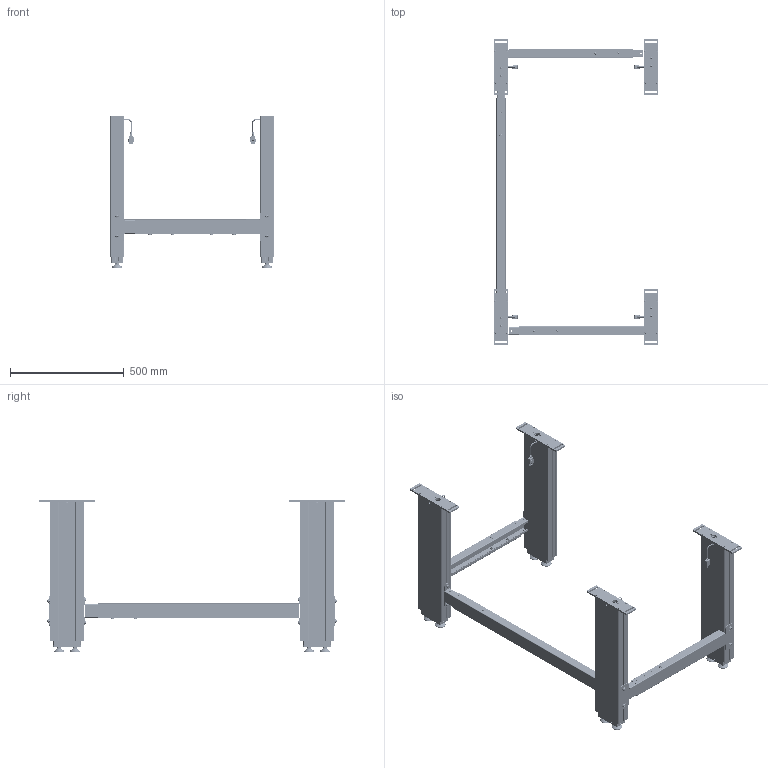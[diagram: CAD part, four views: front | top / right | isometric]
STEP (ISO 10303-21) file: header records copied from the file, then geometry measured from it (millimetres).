
FILE_DESCRIPTION(/* description */ ('Unknown'),/* implementation_level */ '2;1');
FILE_NAME(/* name */ 'Untergestell SC 4942 900-1550_00-Eingefahren',/* time_stamp */ '2026-02-11T17:34:21+01:00',/* author */ ('Unknown'),/* organization */ ('Unknown'),/* preprocessor_version */ 'ST-DEVELOPER v20',/* originating_system */ 'Solid Edge',/* authorisation */ 'Unknown');
FILE_SCHEMA (('AUTOMOTIVE_DESIGN {1 0 10303 214 3 1 1}'));
Length unit declared in the file: millimetre
Products named in the file (40): Untergestell SC 4942 900-1550; 922.00001_oa_0; 126.00166; 142.00166; 142.00159; 124.00129; Kabel Molex_gebogen; 119.00367; 124.00241_oa_1; 119.00368; 119.00366; 142.00343; 126.00167; 127.00634; 096596~1; 096597~1; Sechskantmutter M6 DIN 934; Scheibe Ø6,4 DIN 125; Halbrundkopfschraube mit Innensechskant M8x12 ISO 7380-1; Scheibe Ø8,4 DIN 125; Nutenstein M8_montiert; Halbrundkopfschraube mit Innensechskant und Bund M6x16 ISO 7380-2; 922.00001_oa_2; 124.00241_oa_3; 922.00001_oa_4; 124.00241_oa_5; 127.00632; 096611~1; 096612~1; 922.00001_oa_6; 124.00241_oa_7; 113.00006; 113.00006-ohne Mutter; Mutter M10
Assembly tree (145 placements, depth 3):
  Untergestell SC 4942 900-1550
    922.00001_oa_0
      126.00166
      142.00166  x6
      142.00159  x2
      124.00129
      Kabel Molex_gebogen
      119.00367  x2
      124.00241_oa_1
      119.00368  x2
      119.00366
      142.00343
      126.00167
    127.00634  x2
      096596~1
      096597~1
      Sechskantmutter M6 DIN 934
      Scheibe Ø6,4 DIN 125
      Halbrundkopfschraube mit Innensechskant M8x12 ISO 7380-1
      Scheibe Ø8,4 DIN 125
      Nutenstein M8_montiert
      Halbrundkopfschraube mit Innensechskant und Bund M6x16 ISO 7380-2
    922.00001_oa_2
      126.00166
      142.00166  x6
      142.00159  x2
      124.00129
      Kabel Molex_gebogen
      119.00367  x2
      124.00241_oa_3
      119.00368  x2
      119.00366
      142.00343
      126.00167
    922.00001_oa_4
      126.00166
      142.00166  x6
      142.00159  x2
      124.00129
      Kabel Molex_gebogen
      119.00367  x2
      124.00241_oa_5
      119.00368  x2
      119.00366
      142.00343
      126.00167
    127.00632
      096611~1
      096612~1
      Sechskantmutter M6 DIN 934  x4
      Scheibe Ø6,4 DIN 125  x4
      Halbrundkopfschraube mit Innensechskant M8x12 ISO 7380-1  x4
      Scheibe Ø8,4 DIN 125  x4
      Nutenstein M8_montiert  x4
      Halbrundkopfschraube mit Innensechskant und Bund M6x16 ISO 7380-2  x4
    922.00001_oa_6
      126.00166
      142.00166  x6
      142.00159  x2
      124.00129
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Bounding box: 720 x 1350 x 668 mm (x, y, z)
Volume: 9678081.9 mm3; surface area: 6219646.8 mm2
Topology: 166 solids, 166 shells, 6716 faces, 17362 edges, 11302 vertices
Faces by surface type: plane 3536, cylinder 2172, torus 472, bspline 296, cone 228, sphere 12
Full cylindrical faces by diameter (mm): 2.459 x4, 4 x12, 4.5 x12, 5 x32, 5.3 x8, 5.5 x16, 6 x28, 6.3 x16, 6.4 x12, 6.647 x12, 7 x32, 8 x24, 8.376 x16, 8.5 x64, 8.7 x24, 9 x4, 9.5 x8, 10 x12, 12 x12, 13.6 x12, 14 x12, 15 x8, 16.8 x12, 19 x8, 24.5 x4, 25 x8, 29 x8, 35 x8, 39 x8, 47 x8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
Entity records: 53763 total; most frequent: CARTESIAN_POINT 11563, DIRECTION 7555, ORIENTED_EDGE 7344, EDGE_CURVE 3672, AXIS2_PLACEMENT_3D 2688, VERTEX_POINT 2481, LINE 2179, VECTOR 2179
